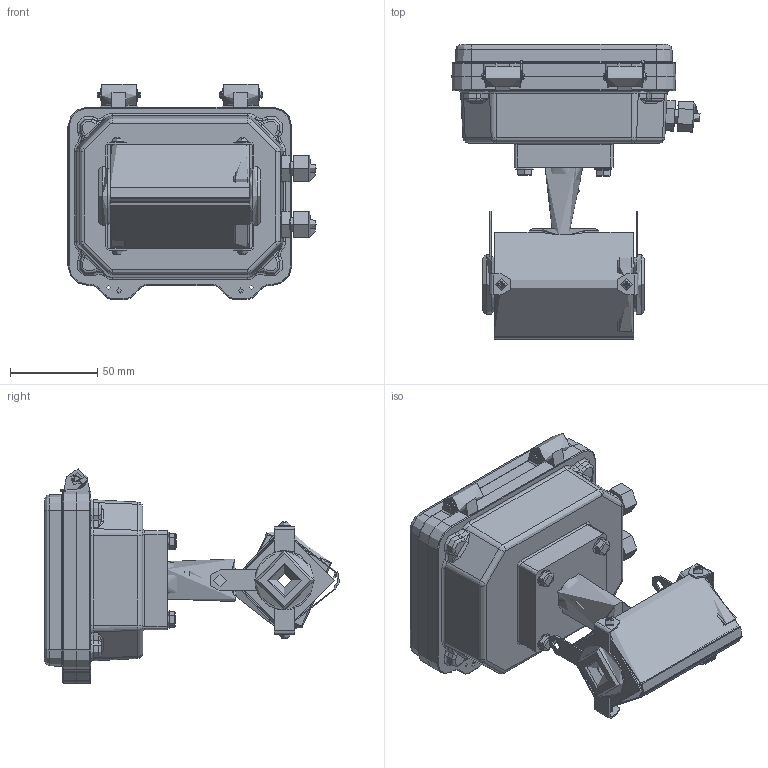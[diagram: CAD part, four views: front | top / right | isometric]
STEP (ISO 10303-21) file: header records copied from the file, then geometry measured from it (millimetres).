
FILE_DESCRIPTION(('STEP AP214'), '1');
FILE_NAME('Âçëåò ÝÌ ÏÐÎÔÈ DN10 ñýíäâè÷', '', ('UNSPECIFIED'), ('UNSPECIFIED'), 'ASCON STEP Converter 1.6', 'ASCON Math Kernel', '');
FILE_SCHEMA(('AUTOMOTIVE_DESIGN { 1 0 10303 214 3 1 1}'));
Length unit declared in the file: millimetre
Products named in the file (1): 婽挭.407212.031-001.02
Bounding box: 142.42 x 169.38 x 123.45 mm (x, y, z)
Topology: 9 solids, 18 shells, 1285 faces, 3113 edges, 1898 vertices
Faces by surface type: plane 552, cylinder 385, cone 165, torus 133, bspline 46, sphere 4
Full cylindrical faces by diameter (mm): 2 x4, 3 x4, 3.242 x14, 3.3 x2, 3.6 x4, 4 x16, 5 x5, 5.5 x1, 6 x4, 7 x11, 7.5 x2, 8 x2, 9.5 x1, 10 x4, 12 x8, 12.5 x2, 14.7 x2, 16 x2, 16.5 x2, 18 x3, 19 x1, 20 x1, 21 x6, 22 x1, 25 x1, 30 x1, 32 x2, 34 x2, 58 x2
Entity records: 66330 total; most frequent: CARTESIAN_POINT 21511, DIRECTION 6358, ORIENTED_EDGE 5648, EDGE_CURVE 2824, AXIS2_PLACEMENT_3D 2491, VERTEX_POINT 1870, EDGE_LOOP 1664, LINE 1376
